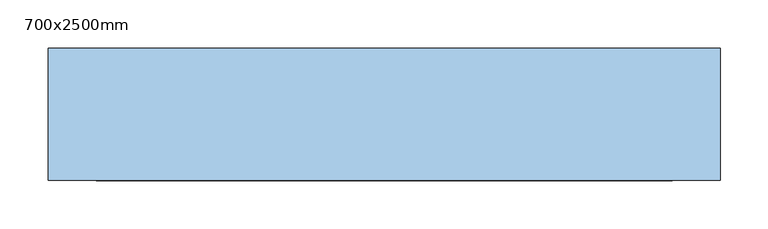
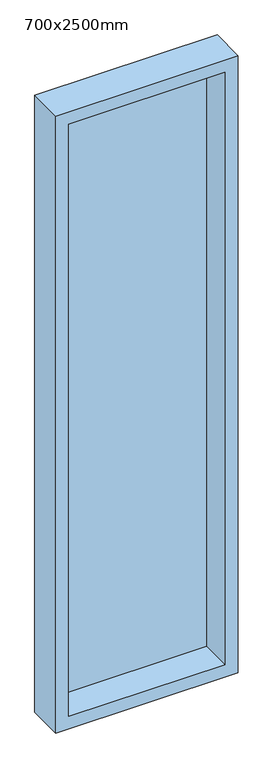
"""IFC4 building model written with IfcOpenShell, lengths in millimetres: window geometry, 单扇窗 : 700x2500mm."""

from ifc_helpers import new_model, si_unit, frame, origin, place, context, project, spatial, polyline, outline, extrude, source, transform, mapped, element, save


def window_700x2500mm_27f117f9(model_context):
    return source(origin(), model_context, "Body", "SweptSolid", [
        extrude(outline(polyline([(2500.0, 311.9), (2500.0, -388.1), (0.0, -388.1), (0.0, 311.9), (2500.0, 311.9)]), holes=[polyline([(2450.0, 261.9), (50.0, 261.9), (50.0, -338.1), (2450.0, -338.1), (2450.0, 261.9)])]), frame((0.0, -69.0, 0.0), z_axis=(0.0, 1.0, 0.0), x_axis=(0.0, 0.0, 1.0)), (0.0, 0.0, 1.0), 138.0),
        extrude(outline(polyline([(261.9, 52.5), (-338.1, 52.5), (-338.1, 57.5), (261.9, 57.5), (261.9, 52.5)])), frame((0.0, 0.0, 50.0), z_axis=(0.0, 0.0, 1.0), x_axis=(1.0, 0.0, 0.0)), (0.0, 0.0, 1.0), 2400.0),
    ])


if __name__ == "__main__":
    model = new_model("IFC4")
    model_context = context("Model", 3, world=origin())
    ifc_project = project(units=[si_unit("LENGTHUNIT", "METRE", prefix="MILLI")], contexts=[model_context])
    site = spatial("IfcSite", under=ifc_project)
    building = spatial("IfcBuilding", under=site)
    placement = place(None, origin())
    window_700x2500mm_shape = window_700x2500mm_27f117f9(model_context)
    element("IfcWindow", 1, ObjectType="单扇窗 : 700x2500mm", at=placement, inside=building, context=model_context, shape_type="MappedRepresentation", body=[
        mapped(window_700x2500mm_shape, transform((0.0, 0.0, 0.0), x_axis=(1.0, 0.0, 0.0), y_axis=(0.0, 1.0, 0.0), z_axis=(0.0, 0.0, 1.0))),
    ])
    save(model, "model.ifc")
